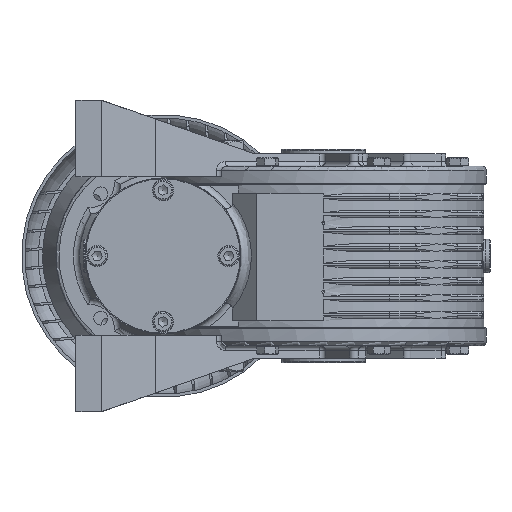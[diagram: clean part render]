
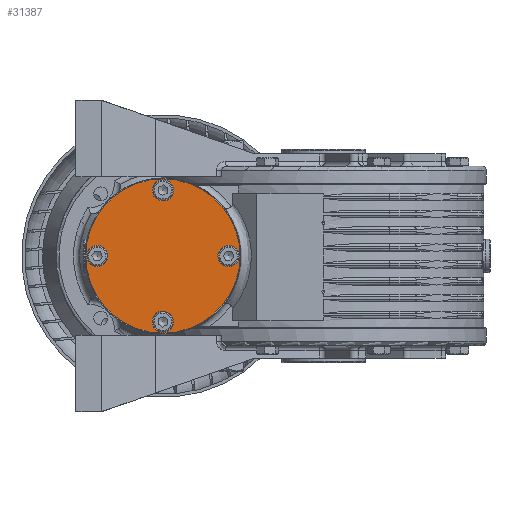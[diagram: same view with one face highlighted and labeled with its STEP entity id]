
A CAD part, left-side view. The second image highlights one B-rep face of the part: STEP entity #31387.
In plain terms, the highlighted planar face has unit normal (-1, 0, 0).
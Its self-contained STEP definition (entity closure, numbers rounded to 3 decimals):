
#31275=CARTESIAN_POINT('',(0.0,4.25,-43.0));
#31276=VERTEX_POINT('',#31275);
#31277=CARTESIAN_POINT('',(0.0,0.,-43.0));
#31278=DIRECTION('',(1.0,0.0,0.0));
#31279=DIRECTION('',(0.0,-1.0,0.0));
#31280=AXIS2_PLACEMENT_3D('',#31277,#31278,#31279);
#31281=CIRCLE('',#31280,4.25);
#31282=EDGE_CURVE('',#31276,#31276,#31281,.T.);
#31295=CARTESIAN_POINT('',(0.0,-43.0,-4.25));
#31296=VERTEX_POINT('',#31295);
#31297=CARTESIAN_POINT('',(0.0,-43.0,0.));
#31298=DIRECTION('',(1.0,0.0,0.0));
#31299=DIRECTION('',(0.0,0.0,1.0));
#31300=AXIS2_PLACEMENT_3D('',#31297,#31298,#31299);
#31301=CIRCLE('',#31300,4.25);
#31302=EDGE_CURVE('',#31296,#31296,#31301,.T.);
#31315=CARTESIAN_POINT('',(0.0,-4.25,43.0));
#31316=VERTEX_POINT('',#31315);
#31317=CARTESIAN_POINT('',(0.0,0.,43.0));
#31318=DIRECTION('',(1.0,0.0,0.0));
#31319=DIRECTION('',(0.0,1.0,0.0));
#31320=AXIS2_PLACEMENT_3D('',#31317,#31318,#31319);
#31321=CIRCLE('',#31320,4.25);
#31322=EDGE_CURVE('',#31316,#31316,#31321,.T.);
#31335=CARTESIAN_POINT('',(0.0,43.0,4.25));
#31336=VERTEX_POINT('',#31335);
#31337=CARTESIAN_POINT('',(0.0,43.0,0.0));
#31338=DIRECTION('',(1.0,0.0,0.0));
#31339=DIRECTION('',(0.0,0.0,-1.0));
#31340=AXIS2_PLACEMENT_3D('',#31337,#31338,#31339);
#31341=CIRCLE('',#31340,4.25);
#31342=EDGE_CURVE('',#31336,#31336,#31341,.T.);
#31355=CARTESIAN_POINT('',(0.0,50.5,0.0));
#31356=VERTEX_POINT('',#31355);
#31357=CARTESIAN_POINT('',(0.0,0.0,0.0));
#31358=DIRECTION('',(1.0,0.0,0.0));
#31359=DIRECTION('',(0.0,1.0,0.0));
#31360=AXIS2_PLACEMENT_3D('',#31357,#31358,#31359);
#31361=CIRCLE('',#31360,50.5);
#31362=EDGE_CURVE('',#31356,#31356,#31361,.T.);
#31367=CARTESIAN_POINT('',(0.0,25.25,0.0));
#31368=DIRECTION('',(-1.0,0.0,0.0));
#31369=DIRECTION('',(0.0,0.0,1.0));
#31370=AXIS2_PLACEMENT_3D('',#31367,#31368,#31369);
#31371=PLANE('',#31370);
#31372=ORIENTED_EDGE('',*,*,#31362,.F.);
#31373=EDGE_LOOP('',(#31372));
#31374=FACE_OUTER_BOUND('',#31373,.T.);
#31375=ORIENTED_EDGE('',*,*,#31282,.T.);
#31376=EDGE_LOOP('',(#31375));
#31377=FACE_BOUND('',#31376,.T.);
#31378=ORIENTED_EDGE('',*,*,#31302,.T.);
#31379=EDGE_LOOP('',(#31378));
#31380=FACE_BOUND('',#31379,.T.);
#31381=ORIENTED_EDGE('',*,*,#31322,.T.);
#31382=EDGE_LOOP('',(#31381));
#31383=FACE_BOUND('',#31382,.T.);
#31384=ORIENTED_EDGE('',*,*,#31342,.T.);
#31385=EDGE_LOOP('',(#31384));
#31386=FACE_BOUND('',#31385,.T.);
#31387=ADVANCED_FACE('',(#31374,#31377,#31380,#31383,#31386),#31371,.T.);
